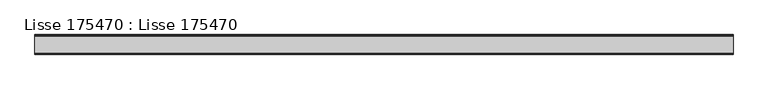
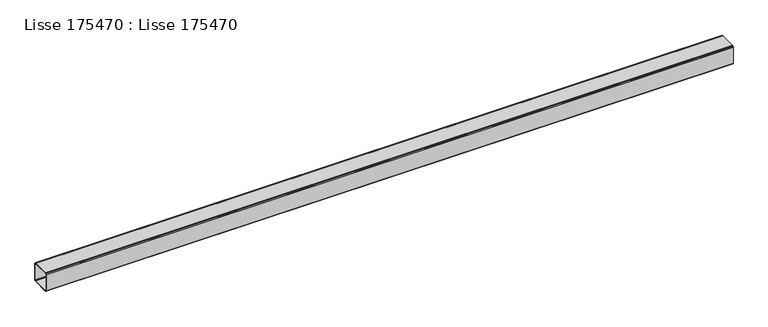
"""IFC4 building model written with IfcOpenShell, lengths in millimetres: beam geometry, Lisse 175470 : Lisse 175470."""

from ifc_helpers import new_model, si_unit, frame, origin, place, context, project, spatial, polyline, outline, extrude, source, transform, mapped, element, save


def lisse_175470_lisse_175470_d40fd8f1(model_context):
    return source(origin(), model_context, "Body", "SweptSolid", [
        extrude(outline(polyline([(94.1961524, 7103.0), (92.0, 7100.8038476), (89.0, 7100.0), (1.0, 7100.0), (-2.0, 7100.8038476), (-4.1961524, 7103.0), (-5.0, 7106.0), (-5.0, 7194.0), (-4.1961524, 7197.0), (-2.0, 7199.1961524), (1.0, 7200.0), (89.0, 7200.0), (92.0, 7199.1961524), (94.1961524, 7197.0), (95.0, 7194.0), (95.0, 7106.0), (94.1961524, 7103.0)]), holes=[polyline([(90.4641016, 7194.0), (89.0, 7195.4641016), (87.0, 7196.0), (3.0, 7196.0), (1.0, 7195.4641016), (-0.4641016, 7194.0), (-1.0, 7192.0), (-1.0, 7108.0), (-0.4641016, 7106.0), (1.0, 7104.5358984), (3.0, 7104.0), (87.0, 7104.0), (89.0, 7104.5358984), (90.4641016, 7106.0), (91.0, 7108.0), (91.0, 7192.0), (90.4641016, 7194.0)])]), frame((92.8791579, 0.0, 0.0), z_axis=(1.0, 0.0, 0.0), x_axis=(0.0, 1.0, 0.0)), (0.0, 0.0, 1.0), 3559.620842),
    ])


if __name__ == "__main__":
    model = new_model("IFC4")
    model_context = context("Model", 3, world=origin())
    ifc_project = project(units=[si_unit("LENGTHUNIT", "METRE", prefix="MILLI")], contexts=[model_context])
    site = spatial("IfcSite", under=ifc_project)
    building = spatial("IfcBuilding", under=site)
    placement = place(None, origin())
    lisse_175470_lisse_175470_shape = lisse_175470_lisse_175470_d40fd8f1(model_context)
    element("IfcBeam", 1, ObjectType="Lisse 175470 : Lisse 175470", at=placement, inside=building, context=model_context, shape_type="MappedRepresentation", body=[
        mapped(lisse_175470_lisse_175470_shape, transform((0.0, 0.0, 0.0), x_axis=(1.0, 0.0, 0.0), y_axis=(0.0, 1.0, 0.0), z_axis=(0.0, 0.0, 1.0))),
    ])
    save(model, "model.ifc")
